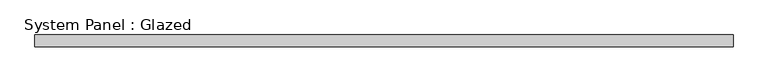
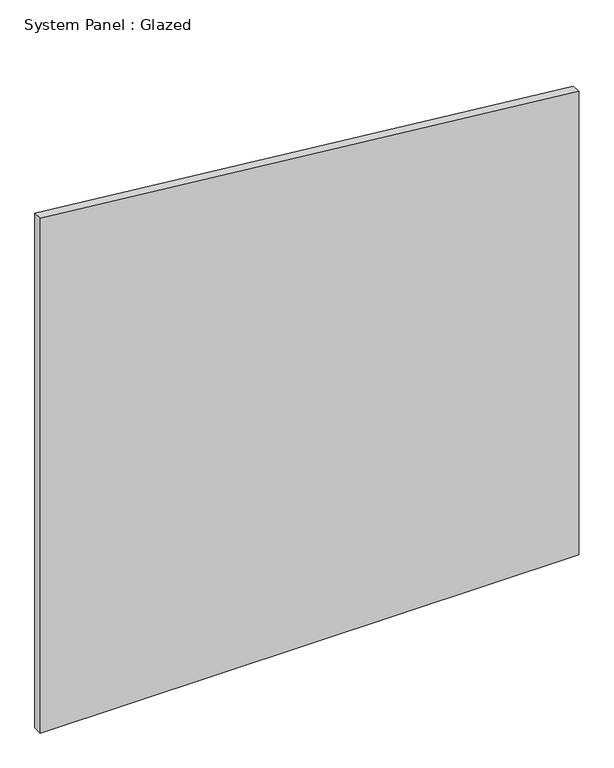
"""IFC4 building model written with IfcOpenShell, lengths in millimetres: plate geometry, System Panel : Glazed."""

from ifc_helpers import new_model, si_unit, frame, origin, place, context, project, spatial, polyline, outline, extrude, source, transform, mapped, element, save


def system_panel_glazed_1cc8c6c3(model_context):
    return source(origin(), model_context, "Body", "SweptSolid", [
        extrude(outline(polyline([(0.0, -735.8695652), (0.0, 735.8695652), (1339.3034846, 735.8695652), (1487.2864633, -735.8695652), (0.0, -735.8695652)])), frame((0.0, 24.5, 0.0), z_axis=(0.0, 1.0, 0.0), x_axis=(0.0, 0.0, 1.0)), (0.0, 0.0, 1.0), 25.0),
    ])


if __name__ == "__main__":
    model = new_model("IFC4")
    model_context = context("Model", 3, world=origin())
    ifc_project = project(units=[si_unit("LENGTHUNIT", "METRE", prefix="MILLI")], contexts=[model_context])
    site = spatial("IfcSite", under=ifc_project)
    building = spatial("IfcBuilding", under=site)
    placement = place(None, origin())
    system_panel_glazed_shape = system_panel_glazed_1cc8c6c3(model_context)
    element("IfcPlate", 1, ObjectType="System Panel : Glazed", at=placement, inside=building, context=model_context, shape_type="MappedRepresentation", body=[
        mapped(system_panel_glazed_shape, transform((0.0, 0.0, 0.0), x_axis=(1.0, 0.0, 0.0), y_axis=(0.0, 1.0, 0.0), z_axis=(0.0, 0.0, 1.0))),
    ])
    save(model, "model.ifc")
